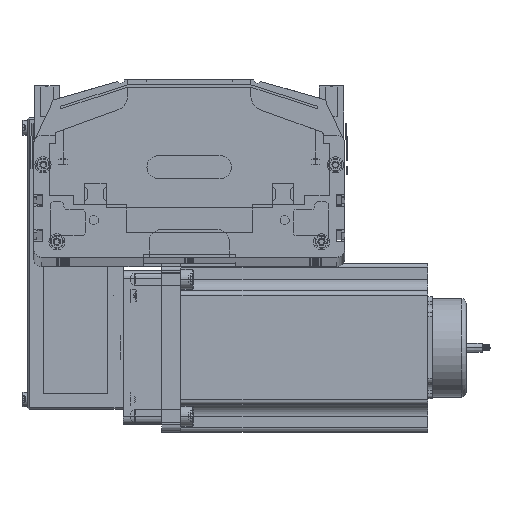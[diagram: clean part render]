
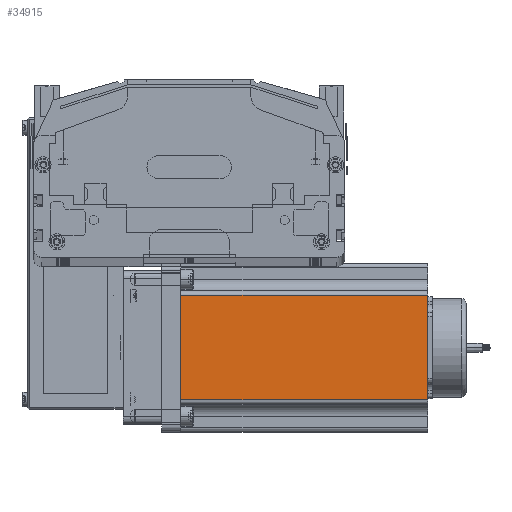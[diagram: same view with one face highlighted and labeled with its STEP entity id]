
A CAD part, top view. The second image highlights one B-rep face of the part: STEP entity #34915.
In plain terms, the highlighted planar face has unit normal (0, 0, 1) as drawn and (0, -1, 0) by its records, which use the part's own axes.
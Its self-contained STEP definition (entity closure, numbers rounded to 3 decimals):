
#34656 = VERTEX_POINT ( 'NONE', #61711 ) ;
#34667 = VERTEX_POINT ( 'NONE', #61724 ) ;
#34817 = EDGE_LOOP ( 'NONE', ( #34924, #34918, #36029, #36160 ) ) ;
#34872 = VERTEX_POINT ( 'NONE', #62112 ) ;
#34910 = EDGE_CURVE ( 'NONE', #34656, #34872, #62201, .T. ) ;
#34915 = ADVANCED_FACE ( 'NONE', ( #62258 ), #64008, .F. ) ;
#34918 = ORIENTED_EDGE ( 'NONE', *, *, #34925, .T. ) ;
#34924 = ORIENTED_EDGE ( 'NONE', *, *, #34910, .T. ) ;
#34925 = EDGE_CURVE ( 'NONE', #34872, #34667, #62295, .T. ) ;
#35933 = VERTEX_POINT ( 'NONE', #68218 ) ;
#36029 = ORIENTED_EDGE ( 'NONE', *, *, #36036, .F. ) ;
#36036 = EDGE_CURVE ( 'NONE', #35933, #34667, #68474, .T. ) ;
#36140 = EDGE_CURVE ( 'NONE', #35933, #34656, #62571, .T. ) ;
#36160 = ORIENTED_EDGE ( 'NONE', *, *, #36140, .T. ) ;
#61711 = CARTESIAN_POINT ( 'NONE',  ( 21.048, 0., 0. ) ) ;
#61724 = CARTESIAN_POINT ( 'NONE',  ( 88.952, 0., 160.5 ) ) ;
#61798 = VECTOR ( 'NONE', #61839, 1000. ) ;
#61839 = DIRECTION ( 'NONE',  ( 1., 0., 0. ) ) ;
#62112 = CARTESIAN_POINT ( 'NONE',  ( 88.952, 0., 0. ) ) ;
#62193 = DIRECTION ( 'NONE',  ( 0., 0., 1. ) ) ;
#62201 = LINE ( 'NONE', #62231, #61798 ) ;
#62230 = DIRECTION ( 'NONE',  ( 0., 1., 0. ) ) ;
#62231 = CARTESIAN_POINT ( 'NONE',  ( 0., 0., 0. ) ) ;
#62236 = AXIS2_PLACEMENT_3D ( 'NONE', #62257, #62230, #62193 ) ;
#62257 = CARTESIAN_POINT ( 'NONE',  ( 0., 0., 160.5 ) ) ;
#62258 = FACE_OUTER_BOUND ( 'NONE', #34817, .T. ) ;
#62294 = CARTESIAN_POINT ( 'NONE',  ( 88.952, 0., 160.5 ) ) ;
#62295 = LINE ( 'NONE', #62294, #62433 ) ;
#62432 = DIRECTION ( 'NONE',  ( 0., 0., 1. ) ) ;
#62433 = VECTOR ( 'NONE', #62432, 1000. ) ;
#62571 = LINE ( 'NONE', #62621, #62613 ) ;
#62613 = VECTOR ( 'NONE', #62620, 1000. ) ;
#62620 = DIRECTION ( 'NONE',  ( 0., 0., -1. ) ) ;
#62621 = CARTESIAN_POINT ( 'NONE',  ( 21.048, 0., 160.5 ) ) ;
#64008 = PLANE ( 'NONE',  #62236 ) ;
#68218 = CARTESIAN_POINT ( 'NONE',  ( 21.048, 0., 160.5 ) ) ;
#68352 = CARTESIAN_POINT ( 'NONE',  ( 0., 0., 160.5 ) ) ;
#68437 = DIRECTION ( 'NONE',  ( 1., 0., 0. ) ) ;
#68472 = VECTOR ( 'NONE', #68437, 1000. ) ;
#68474 = LINE ( 'NONE', #68352, #68472 ) ;
